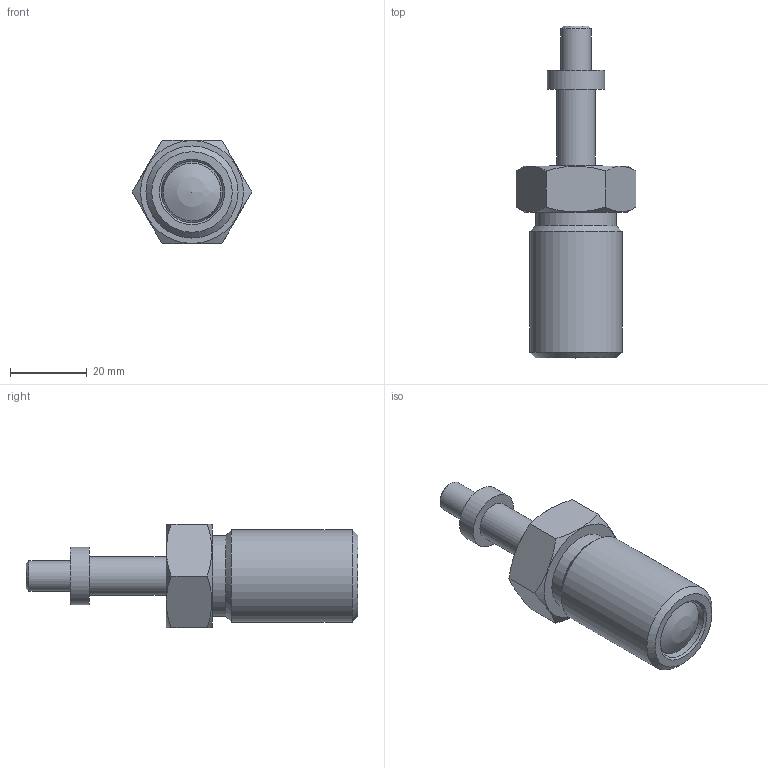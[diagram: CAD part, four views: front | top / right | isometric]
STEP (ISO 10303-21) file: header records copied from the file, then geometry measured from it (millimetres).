
FILE_DESCRIPTION( ( 'STEP AP203' ), '1' );
FILE_NAME( 'C:/Temp/Ganter_Step_05_03_2020/data/3_1/gn817/gn817_ni-rastbolzen/Stainless steel-Indexing plunger GN 817-16-20-G-NI (activated).stp', '2020-03-12T08:59:55', ( 'License CC BY-ND 4.0' ), ( 'CADENAS' ), ' ', 'PARTsolutions', ' ' );
FILE_SCHEMA( ( 'CONFIG_CONTROL_DESIGN' ) );
Length unit declared in the file: millimetre
Products named in the file (4): Stainless steel-Indexing plunger GN 817-16-20-G-NI (activated); _Stainless steel-Indexing plunger GN 817-16-20-G-NI (activated)-d2; _Stainless steel-Indexing plunger GN 817-16-20-B-NI-2; _Stainless Steel-Indexing plunger GN 817-16-20-G-NI-6
Assembly tree (3 placements, depth 2):
  Stainless steel-Indexing plunger GN 817-16-20-G-NI (activated)
    _Stainless steel-Indexing plunger GN 817-16-20-G-NI (activated)-d2
    _Stainless steel-Indexing plunger GN 817-16-20-B-NI-2
    _Stainless Steel-Indexing plunger GN 817-16-20-G-NI-6
Bounding box: 31.18 x 86.5 x 27 mm (x, y, z)
Volume: 26846 mm3; surface area: 11503.8 mm2
Topology: 2 solids, 2 shells, 33 faces, 64 edges, 40 vertices
Faces by surface type: plane 14, cone 8, cylinder 8, torus 2, sphere 1
Full cylindrical faces by diameter (mm): 8 x1, 10 x1, 12 x1, 15 x1, 16 x2, 21 x1, 24 x1
Entity records: 979 total; most frequent: CARTESIAN_POINT 251, DIRECTION 130, ORIENTED_EDGE 86, AXIS2_PLACEMENT_3D 62, EDGE_LOOP 58, FACE_OUTER_BOUND 43, EDGE_CURVE 43, VERTEX_POINT 38
